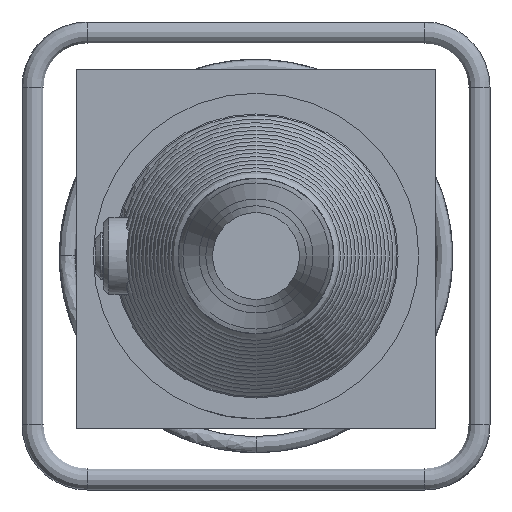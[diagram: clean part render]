
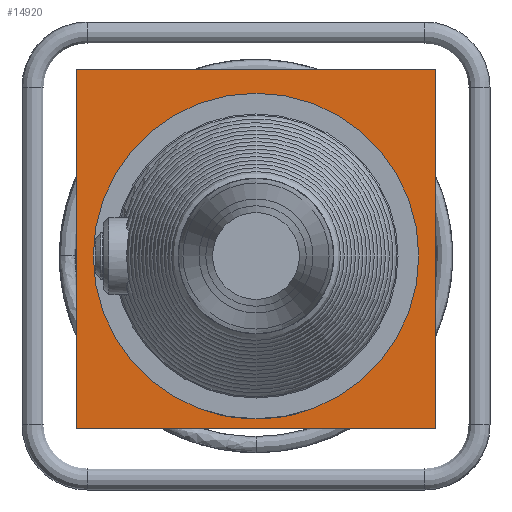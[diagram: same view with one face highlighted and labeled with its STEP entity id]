
A CAD part, left-side view. The second image highlights one B-rep face of the part: STEP entity #14920.
In plain terms, the highlighted planar face has unit normal (-1, 0, 0).
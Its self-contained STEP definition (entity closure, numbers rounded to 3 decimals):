
#1487=PLANE('',#15725);
#2393=LINE('',#37928,#3305);
#2397=LINE('',#37935,#3309);
#2400=LINE('',#37940,#3312);
#2403=LINE('',#37944,#3315);
#3305=VECTOR('',#18208,265.);
#3309=VECTOR('',#18214,265.);
#3312=VECTOR('',#18219,265.);
#3315=VECTOR('',#18224,265.);
#3556=FACE_BOUND('',#5406,.T.);
#4399=FACE_OUTER_BOUND('',#5405,.T.);
#5405=EDGE_LOOP('',(#13535,#13536,#13537,#13538));
#5406=EDGE_LOOP('',(#13539));
#5872=CIRCLE('',#15671,120.);
#7320=VERTEX_POINT('',#34913);
#7342=VERTEX_POINT('',#37926);
#7343=VERTEX_POINT('',#37927);
#7345=VERTEX_POINT('',#37934);
#7346=VERTEX_POINT('',#37939);
#9402=EDGE_CURVE('',#7320,#7320,#5872,.T.);
#9425=EDGE_CURVE('',#7342,#7343,#2393,.T.);
#9429=EDGE_CURVE('',#7343,#7345,#2397,.T.);
#9432=EDGE_CURVE('',#7345,#7346,#2400,.T.);
#9435=EDGE_CURVE('',#7346,#7342,#2403,.T.);
#13535=ORIENTED_EDGE('',*,*,#9435,.T.);
#13536=ORIENTED_EDGE('',*,*,#9425,.T.);
#13537=ORIENTED_EDGE('',*,*,#9429,.T.);
#13538=ORIENTED_EDGE('',*,*,#9432,.T.);
#13539=ORIENTED_EDGE('',*,*,#9402,.T.);
#14920=ADVANCED_FACE('',(#4399,#3556),#1487,.T.);
#15671=AXIS2_PLACEMENT_3D('',#34914,#18100,#18101);
#15725=AXIS2_PLACEMENT_3D('',#37946,#18226,#18227);
#18100=DIRECTION('center_axis',(1.,0.,0.));
#18101=DIRECTION('ref_axis',(0.,1.,0.));
#18208=DIRECTION('',(0.,0.,-1.));
#18214=DIRECTION('',(0.,-1.,0.));
#18219=DIRECTION('',(0.,0.,1.));
#18224=DIRECTION('',(0.,1.,0.));
#18226=DIRECTION('center_axis',(-1.,0.,0.));
#18227=DIRECTION('ref_axis',(0.,0.,-1.));
#34913=CARTESIAN_POINT('',(-112.151,120.,0.));
#34914=CARTESIAN_POINT('Origin',(-112.151,0.,
0.));
#37926=CARTESIAN_POINT('',(-112.151,132.5,137.753));
#37927=CARTESIAN_POINT('',(-112.151,132.5,-127.247));
#37928=CARTESIAN_POINT('',(-112.151,132.5,137.753));
#37934=CARTESIAN_POINT('',(-112.151,-132.5,-127.247));
#37935=CARTESIAN_POINT('',(-112.151,132.5,-127.247));
#37939=CARTESIAN_POINT('',(-112.151,-132.5,137.753));
#37940=CARTESIAN_POINT('',(-112.151,-132.5,-127.247));
#37944=CARTESIAN_POINT('',(-112.151,-132.5,137.753));
#37946=CARTESIAN_POINT('Origin',(-112.151,0.,
5.253));
